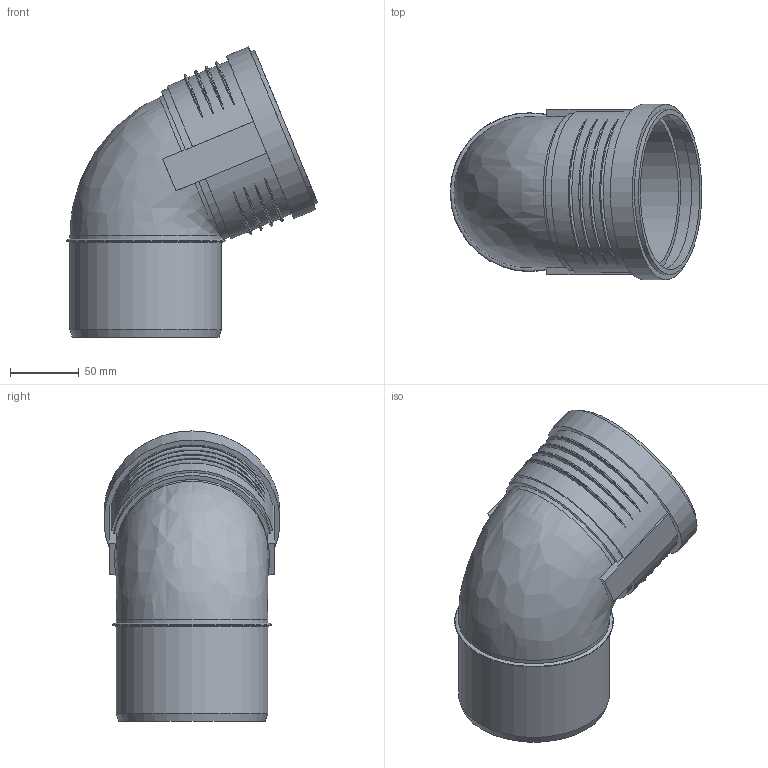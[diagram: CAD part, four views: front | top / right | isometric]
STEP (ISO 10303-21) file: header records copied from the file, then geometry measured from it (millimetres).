
FILE_DESCRIPTION(/* description */ (''),/* implementation_level */ '2;1');
FILE_NAME(/* name */ 'Z:\Geberit\Export\NewStep\390523.stp',/* time_stamp */ '2014-04-02T08:14:11+02:00',/* author */ ('ML'),/* organization */ (''),/* preprocessor_version */ 'ST-DEVELOPER v15.2',/* originating_system */ 'Autodesk Inventor 2014',/* authorisation */ '');
FILE_SCHEMA (('AUTOMOTIVE_DESIGN { 1 0 10303 214 3 1 1 }'));
Length unit declared in the file: millimetre
Products named in the file (3): 861334; 861404; 390523
Bounding box: 183.17 x 128.1 x 211.24 mm (x, y, z)
Volume: 294356.9 mm3; surface area: 169865 mm2
Topology: 2 solids, 2 shells, 68 faces, 162 edges, 109 vertices
Faces by surface type: torus 28, plane 19, cylinder 18, cone 2, bspline 1
Full cylindrical faces by diameter (mm): 103 x2, 103.2 x1, 110.2 x4, 113.3 x2, 120.3 x1, 121.1 x1, 128.1 x1
Entity records: 2726 total; most frequent: CARTESIAN_POINT 1150, DIRECTION 290, ORIENTED_EDGE 278, EDGE_CURVE 139, AXIS2_PLACEMENT_3D 127, VERTEX_POINT 106, EDGE_LOOP 103, STYLED_ITEM 70
